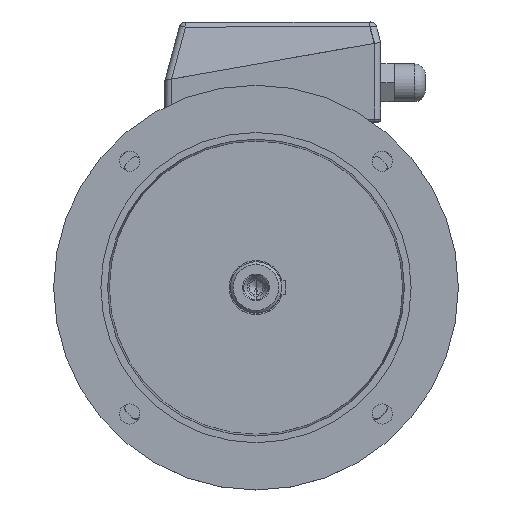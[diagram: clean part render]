
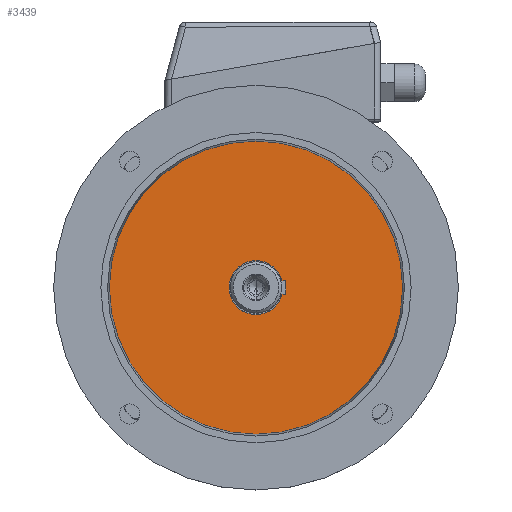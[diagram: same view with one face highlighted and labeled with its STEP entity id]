
A CAD part, top view. The second image highlights one B-rep face of the part: STEP entity #3439.
In plain terms, the highlighted planar face has unit normal (0, 0, 1).
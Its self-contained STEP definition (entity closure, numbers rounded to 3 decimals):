
#1216 = VERTEX_POINT ( 'NONE', #13499 ) ;
#1467 = EDGE_CURVE ( 'NONE', #2442, #1216, #13617, .T. ) ;
#2442 = VERTEX_POINT ( 'NONE', #14087 ) ;
#3161 = EDGE_LOOP ( 'NONE', ( #12353, #12155 ) ) ;
#3439 = ADVANCED_FACE ( 'NONE', ( #14588, #14594 ), #14595, .T. ) ;
#5018 = EDGE_CURVE ( 'NONE', #12719, #12777, #15370, .T. ) ;
#8709 = CIRCLE ( 'NONE', #8712, 20. ) ;
#8712 = AXIS2_PLACEMENT_3D ( 'NONE', #8713, #8714, #8715 ) ;
#8713 = CARTESIAN_POINT ( 'NONE',  ( 0., 0., 47. ) ) ;
#8714 = DIRECTION ( 'NONE',  ( 0., 0., 1. ) ) ;
#8715 = DIRECTION ( 'NONE',  ( 1., 0., 0. ) ) ;
#9695 = CARTESIAN_POINT ( 'NONE',  ( 108.688, 0., 47. ) ) ;
#9817 = CARTESIAN_POINT ( 'NONE',  ( -108.688, 0., 47. ) ) ;
#9941 = CIRCLE ( 'NONE', #9942, 108.688 ) ;
#9942 = AXIS2_PLACEMENT_3D ( 'NONE', #9943, #9944, #9945 ) ;
#9943 = CARTESIAN_POINT ( 'NONE',  ( 0., 0., 47. ) ) ;
#9944 = DIRECTION ( 'NONE',  ( 0., 0., 1. ) ) ;
#9945 = DIRECTION ( 'NONE',  ( 1., 0., 0. ) ) ;
#11879 = ORIENTED_EDGE ( 'NONE', *, *, #12820, .T. ) ;
#11957 = ORIENTED_EDGE ( 'NONE', *, *, #5018, .T. ) ;
#12089 = EDGE_LOOP ( 'NONE', ( #11957, #11879 ) ) ;
#12155 = ORIENTED_EDGE ( 'NONE', *, *, #1467, .F. ) ;
#12279 = EDGE_CURVE ( 'NONE', #1216, #2442, #8709, .T. ) ;
#12353 = ORIENTED_EDGE ( 'NONE', *, *, #12279, .F. ) ;
#12719 = VERTEX_POINT ( 'NONE', #9695 ) ;
#12777 = VERTEX_POINT ( 'NONE', #9817 ) ;
#12820 = EDGE_CURVE ( 'NONE', #12777, #12719, #9941, .T. ) ;
#13499 = CARTESIAN_POINT ( 'NONE',  ( 0., 20., 47. ) ) ;
#13617 = CIRCLE ( 'NONE', #13618, 20. ) ;
#13618 = AXIS2_PLACEMENT_3D ( 'NONE', #13619, #13620, #13621 ) ;
#13619 = CARTESIAN_POINT ( 'NONE',  ( 0., 0., 47. ) ) ;
#13620 = DIRECTION ( 'NONE',  ( 0., 0., 1. ) ) ;
#13621 = DIRECTION ( 'NONE',  ( 1., 0., 0. ) ) ;
#14087 = CARTESIAN_POINT ( 'NONE',  ( 0., -20., 47. ) ) ;
#14588 = FACE_BOUND ( 'NONE', #3161, .T. ) ;
#14594 = FACE_OUTER_BOUND ( 'NONE', #12089, .T. ) ;
#14595 = PLANE ( 'NONE',  #14596 ) ;
#14596 = AXIS2_PLACEMENT_3D ( 'NONE', #14597, #14598, #14599 ) ;
#14597 = CARTESIAN_POINT ( 'NONE',  ( 0., 110., 47. ) ) ;
#14598 = DIRECTION ( 'NONE',  ( 0., 0., 1. ) ) ;
#14599 = DIRECTION ( 'NONE',  ( 1., 0., 0. ) ) ;
#15370 = CIRCLE ( 'NONE', #15371, 108.688 ) ;
#15371 = AXIS2_PLACEMENT_3D ( 'NONE', #15372, #15373, #15374 ) ;
#15372 = CARTESIAN_POINT ( 'NONE',  ( 0., 0., 47. ) ) ;
#15373 = DIRECTION ( 'NONE',  ( 0., 0., 1. ) ) ;
#15374 = DIRECTION ( 'NONE',  ( 1., 0., 0. ) ) ;
